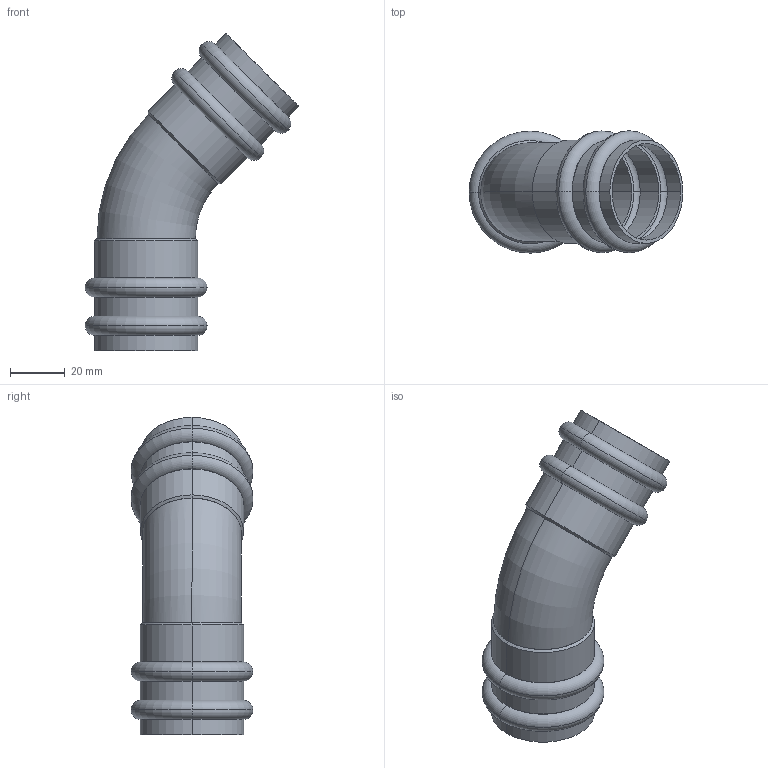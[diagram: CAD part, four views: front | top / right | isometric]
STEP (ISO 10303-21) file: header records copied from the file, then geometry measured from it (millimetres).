
FILE_DESCRIPTION(('starvars output'),'1');
FILE_NAME('cv20240422105130000011669.stp','10:51:31 2024/04/22',('Thomas Industrial Network Germany GmbH'),(' '),'Spatial InterOp 3D',' ',' ');
FILE_SCHEMA(('AUTOMOTIVE_DESIGN { 1 0 10303 214 3 1 1 }'));
Length unit declared in the file: millimetre
Products named in the file (1): 1
Bounding box: 78.01 x 44.5 x 115.76 mm (x, y, z)
Volume: 22443.4 mm3; surface area: 30962.1 mm2
Topology: 1 solids, 1 shells, 74 faces, 148 edges, 92 vertices
Faces by surface type: torus 28, cylinder 20, plane 18, cone 8
Entity records: 2904 total; most frequent: CARTESIAN_POINT 639, DIRECTION 410, ORIENTED_EDGE 296, AXIS2_PLACEMENT_3D 191, EDGE_CURVE 148, CIRCLE 116, EDGE_LOOP 92, VERTEX_POINT 92
